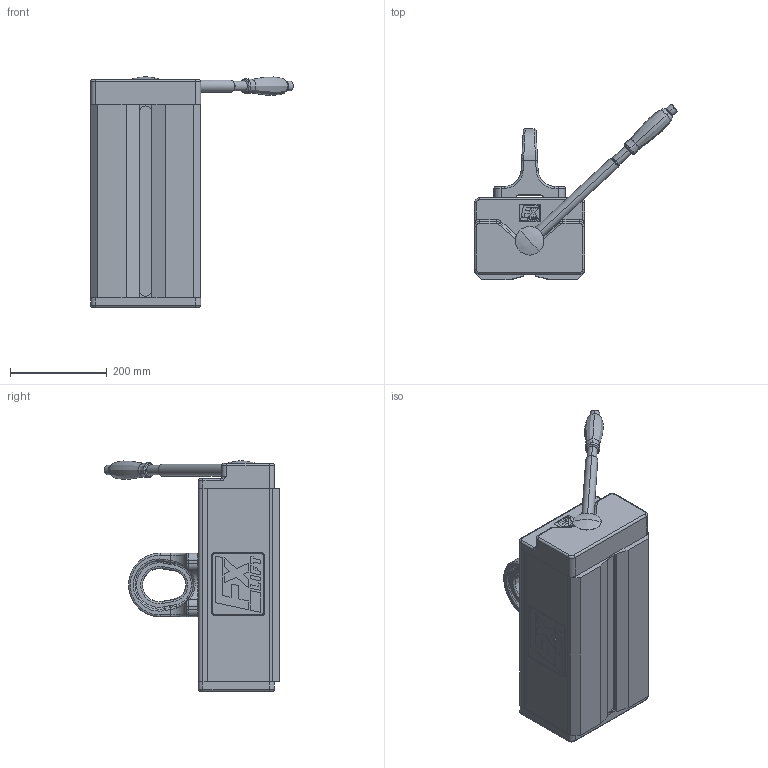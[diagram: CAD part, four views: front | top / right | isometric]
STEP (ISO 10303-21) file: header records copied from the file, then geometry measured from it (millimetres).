
FILE_DESCRIPTION(('STEP AP214'),'1');
FILE_NAME('1101_2000.stp','2017-06-12T09:29:56',('TraceParts'),('TraceParts S.A.'),'Spatial InterOp 3D',' ',' ');
FILE_SCHEMA(('automotive_design'));
Length unit declared in the file: millimetre
Products named in the file (1): 1101_2000
Bounding box: 420.06 x 363.17 x 477.46 mm (x, y, z)
Volume: 17811847.1 mm3; surface area: 555081.2 mm2
Topology: 1 solids, 1 shells, 718 faces, 1850 edges, 1166 vertices
Faces by surface type: plane 413, bspline 127, cylinder 117, cone 31, torus 26, sphere 4
Entity records: 34315 total; most frequent: CARTESIAN_POINT 17815, ORIENTED_EDGE 3658, DIRECTION 2990, EDGE_CURVE 1829, LINE 1218, VECTOR 1218, VERTEX_POINT 1166, AXIS2_PLACEMENT_3D 886
